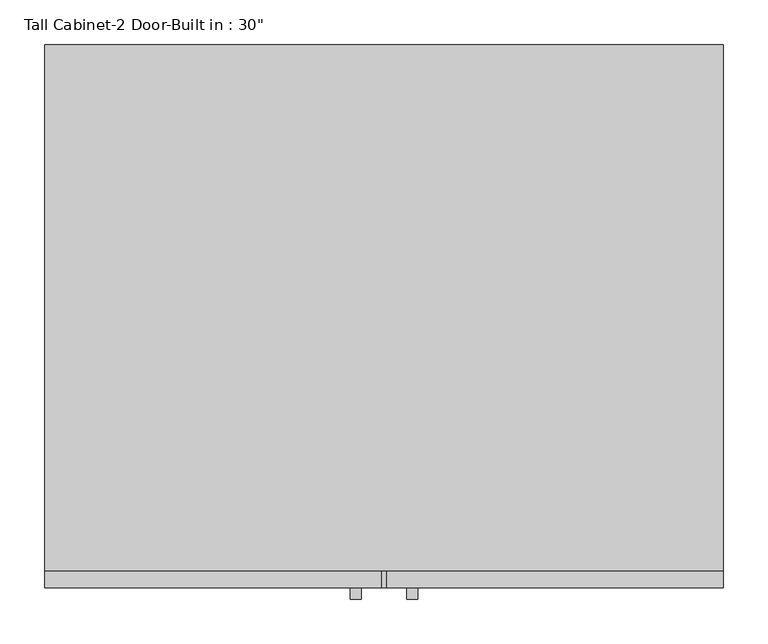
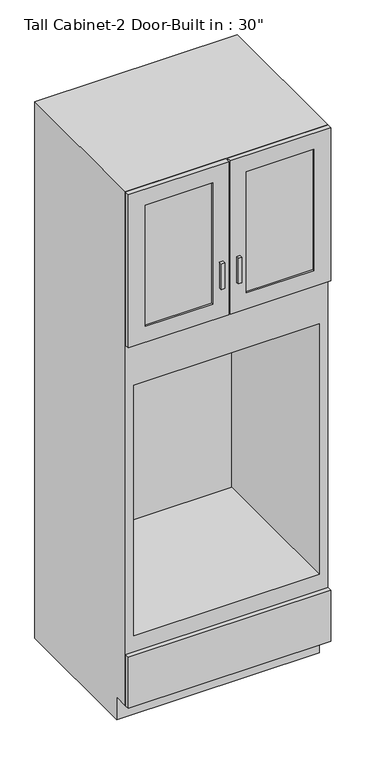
"""IFC4 building model written with IfcOpenShell, lengths in millimetres: furniture geometry."""

from ifc_helpers import new_model, si_unit, frame, origin, place, context, project, spatial, polyline, outline, extrude, faceted_brep, source, transform, mapped, element, save


def furniture_fb6977ac(model_context):
    return source(origin(), model_context, "Body", "SolidModel", [
        faceted_brep([(399.7377049, -590.55, 90.4875), (399.7377049, -590.55, 2135.1875), (-362.2622951, -590.55, 2135.1875), (-362.2622951, -590.55, 90.4875), (-343.2122951, -590.55, 2116.1375), (380.6877049, -590.55, 2116.1375), (380.6877049, -590.55, 1525.5875), (-343.2122951, -590.55, 1525.5875), (367.9877049, -590.55, 357.1875), (-330.5122951, -590.55, 357.1875), (-330.5122951, -590.55, 1354.1375), (367.9877049, -590.55, 1354.1375), (-362.2622951, 0.0, 2135.1875), (399.7377049, 0.0, 2135.1875), (399.7377049, 0.0, 0.0), (-362.2622951, 0.0, 0.0), (399.7377049, -533.4, 90.4875), (399.7377049, -533.4, 0.0), (-362.2622951, -533.4, 0.0), (-362.2622951, -533.4, 90.4875), (380.6877049, -19.05, 2116.1375), (380.6877049, -19.05, 1525.5875), (-343.2122951, -19.05, 1525.5875), (-343.2122951, -19.05, 2116.1375), (367.9877049, -19.05, 357.1875), (-330.5122951, -19.05, 357.1875), (-330.5122951, -19.05, 1354.1375), (367.9877049, -19.05, 1354.1375)], [[[0, 1, 2, 3], [4, 5, 6, 7], [8, 9, 10, 11]], [[12, 13, 14, 15]], [[1, 0, 16, 17, 14, 13]], [[2, 1, 13, 12]], [[3, 2, 12, 15, 18, 19]], [[0, 3, 19, 16]], [[6, 5, 20, 21]], [[4, 7, 22, 23]], [[5, 4, 23, 20]], [[14, 17, 18, 15]], [[18, 17, 16, 19]], [[7, 6, 21, 22]], [[9, 8, 24, 25]], [[10, 9, 25, 26]], [[11, 10, 26, 27]], [[8, 11, 27, 24]], [[21, 20, 23, 22]], [[25, 24, 27, 26]]]),
        extrude(outline(polyline([(399.7377049, -609.6), (-362.2622951, -609.6), (-362.2622951, -590.55), (399.7377049, -590.55), (399.7377049, -609.6)])), frame((0.0, 0.0, 90.4875), z_axis=(0.0, 0.0, 1.0), x_axis=(1.0, 0.0, 0.0)), (0.0, 0.0, 1.0), 203.2),
        extrude(outline(polyline([(2135.1875, 15.5627049), (2135.1875, -362.2622951), (1525.5875, -362.2622951), (1525.5875, 15.5627049), (2135.1875, 15.5627049)]), holes=[polyline([(2071.6875, -44.7622951), (1589.0875, -44.7622951), (1589.0875, -298.7622951), (2071.6875, -298.7622951), (2071.6875, -44.7622951)])]), frame((0.0, -609.6, 0.0), z_axis=(0.0, 1.0, 0.0), x_axis=(0.0, 0.0, 1.0)), (0.0, 0.0, 1.0), 19.05),
        extrude(outline(polyline([(2135.1875, 21.9127049), (1525.5875, 21.9127049), (1525.5875, 399.7377049), (2135.1875, 399.7377049), (2135.1875, 21.9127049)]), holes=[polyline([(2071.6875, 336.2377049), (1589.0875, 336.2377049), (1589.0875, 82.2377049), (2071.6875, 82.2377049), (2071.6875, 336.2377049)])]), frame((0.0, -609.6, 0.0), z_axis=(0.0, 1.0, 0.0), x_axis=(0.0, 0.0, 1.0)), (0.0, 0.0, 1.0), 19.05),
        extrude(outline(polyline([(399.7377049, -609.6), (-362.2622951, -609.6), (-362.2622951, -590.55), (399.7377049, -590.55), (399.7377049, -609.6)])), frame((0.0, 0.0, 90.4875), z_axis=(0.0, 0.0, 1.0), x_axis=(1.0, 0.0, 0.0)), (0.0, 0.0, 1.0), 203.2),
        extrude(outline(polyline([(-6.6622951, -622.3), (-19.1945267, -622.3), (-19.1945267, -609.6), (-6.6622951, -609.6), (-6.6622951, -622.3)])), frame((0.0, 0.0, 1645.6417867), z_axis=(0.0, 0.0, 1.0), x_axis=(1.0, 0.0, 0.0)), (0.0, 0.0, 1.0), 101.6),
        extrude(outline(polyline([(56.6699365, -622.3), (44.1377049, -622.3), (44.1377049, -609.6), (56.6699365, -609.6), (56.6699365, -622.3)])), frame((0.0, 0.0, 1645.6417867), z_axis=(0.0, 0.0, 1.0), x_axis=(1.0, 0.0, 0.0)), (0.0, 0.0, 1.0), 101.6),
        extrude(outline(polyline([(-44.7622951, -603.25), (-298.7622951, -603.25), (-298.7622951, -596.9), (-44.7622951, -596.9), (-44.7622951, -603.25)])), frame((0.0, 0.0, 1589.0875), z_axis=(0.0, 0.0, 1.0), x_axis=(1.0, 0.0, 0.0)), (0.0, 0.0, 1.0), 482.6),
        extrude(outline(polyline([(336.2377049, -603.25), (82.2377049, -603.25), (82.2377049, -596.9), (336.2377049, -596.9), (336.2377049, -603.25)])), frame((0.0, 0.0, 1589.0875), z_axis=(0.0, 0.0, 1.0), x_axis=(1.0, 0.0, 0.0)), (0.0, 0.0, 1.0), 482.6),
    ])


if __name__ == "__main__":
    model = new_model("IFC4")
    model_context = context("Model", 3, world=origin())
    ifc_project = project(units=[si_unit("LENGTHUNIT", "METRE", prefix="MILLI")], contexts=[model_context])
    site = spatial("IfcSite", under=ifc_project)
    building = spatial("IfcBuilding", under=site)
    placement = place(None, origin())
    furniture_shape = furniture_fb6977ac(model_context)
    element("IfcFurniture", 1, ObjectType="Tall Cabinet-2 Door-Built in : 30\"", at=placement, inside=building, context=model_context, shape_type="MappedRepresentation", body=[
        mapped(furniture_shape, transform((0.0, 0.0, 0.0), x_axis=(1.0, 0.0, 0.0), y_axis=(0.0, 1.0, 0.0), z_axis=(0.0, 0.0, 1.0))),
    ])
    save(model, "model.ifc")
